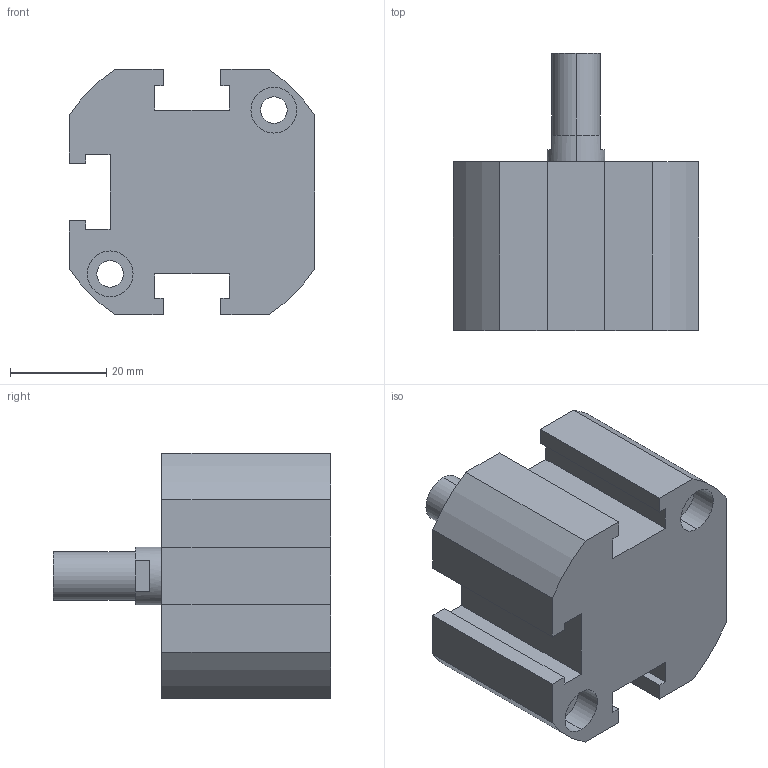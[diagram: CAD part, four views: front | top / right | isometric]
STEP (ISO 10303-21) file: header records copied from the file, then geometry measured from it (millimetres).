
FILE_DESCRIPTION (( 'STEP AP203' ), '1' );
FILE_NAME ('XC#M0-32-10.STEP', '2016-05-23T08:34:09', ( '' ), ( '' ), 'SwSTEP 2.0', 'SolidWorks 2014', '' );
FILE_SCHEMA (( 'CONFIG_CONTROL_DESIGN' ));
Length unit declared in the file: millimetre
Products named in the file (1): XC#M0-32-10
Bounding box: 51 x 57.5 x 51 mm (x, y, z)
Volume: 70721.4 mm3; surface area: 15851.1 mm2
Topology: 1 solids, 1 shells, 91 faces, 231 edges, 151 vertices
Faces by surface type: plane 47, cylinder 40, cone 4
Entity records: 2838 total; most frequent: DIRECTION 503, CARTESIAN_POINT 472, ORIENTED_EDGE 458, EDGE_CURVE 229, AXIS2_PLACEMENT_3D 182, VERTEX_POINT 151, VECTOR 139, LINE 139
